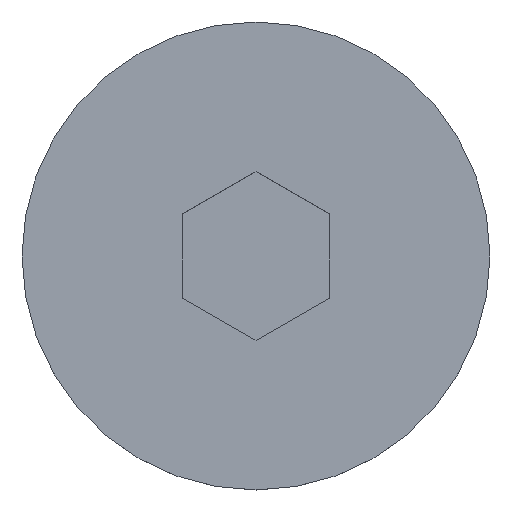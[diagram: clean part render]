
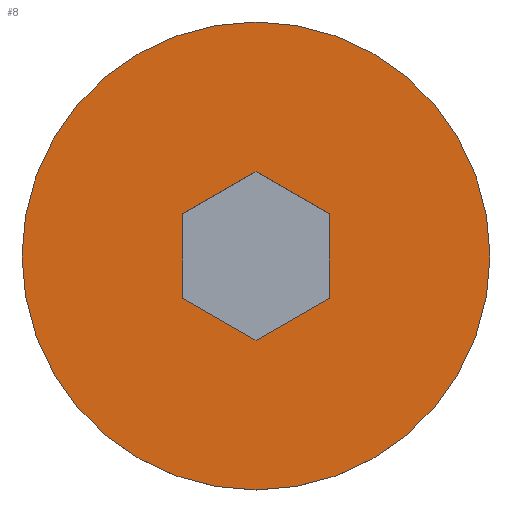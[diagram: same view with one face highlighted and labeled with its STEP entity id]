
A CAD part, top view. The second image highlights one B-rep face of the part: STEP entity #8.
In plain terms, the highlighted planar face has unit normal (0, 0, 1).
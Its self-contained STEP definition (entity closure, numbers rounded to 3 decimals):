
#1 = EDGE_CURVE ( 'NONE', #62, #221, #347, .T. ) ;
#2 = EDGE_CURVE ( 'NONE', #74, #398, #235, .T. ) ;
#3 = ORIENTED_EDGE ( 'NONE', *, *, #9, .F. ) ;
#5 = VECTOR ( 'NONE', #327, 1000. ) ;
#6 = ORIENTED_EDGE ( 'NONE', *, *, #2, .F. ) ;
#8 = ADVANCED_FACE ( 'NONE', ( #178, #249 ), #393, .T. ) ;
#9 = EDGE_CURVE ( 'NONE', #398, #149, #122, .T. ) ;
#11 = DIRECTION ( 'NONE',  ( -1., 0., 0. ) ) ;
#22 = DIRECTION ( 'NONE',  ( 0., 0., -1. ) ) ;
#23 = VECTOR ( 'NONE', #388, 1000. ) ;
#25 = CARTESIAN_POINT ( 'NONE',  ( 0., 3.464, 5.22 ) ) ;
#30 = EDGE_LOOP ( 'NONE', ( #185, #45, #356, #3, #6, #195 ) ) ;
#41 = LINE ( 'NONE', #369, #181 ) ;
#45 = ORIENTED_EDGE ( 'NONE', *, *, #102, .F. ) ;
#54 = CARTESIAN_POINT ( 'NONE',  ( 9.61, 0., 5.22 ) ) ;
#57 = CARTESIAN_POINT ( 'NONE',  ( 0., -3.464, 5.22 ) ) ;
#59 = CARTESIAN_POINT ( 'NONE',  ( -3., -1.732, 5.22 ) ) ;
#62 = VERTEX_POINT ( 'NONE', #332 ) ;
#74 = VERTEX_POINT ( 'NONE', #120 ) ;
#77 = CARTESIAN_POINT ( 'NONE',  ( -3., -1.732, 5.22 ) ) ;
#79 = EDGE_CURVE ( 'NONE', #221, #62, #101, .T. ) ;
#91 = CARTESIAN_POINT ( 'NONE',  ( 0., 0., 5.22 ) ) ;
#93 = DIRECTION ( 'NONE',  ( -1., 0., 0. ) ) ;
#101 = CIRCLE ( 'NONE', #240, 9.61 ) ;
#102 = EDGE_CURVE ( 'NONE', #392, #260, #41, .T. ) ;
#113 = CARTESIAN_POINT ( 'NONE',  ( 0., 0., 5.22 ) ) ;
#115 = ORIENTED_EDGE ( 'NONE', *, *, #1, .F. ) ;
#120 = CARTESIAN_POINT ( 'NONE',  ( -3., 1.732, 5.22 ) ) ;
#122 = LINE ( 'NONE', #77, #5 ) ;
#137 = VECTOR ( 'NONE', #197, 1000. ) ;
#142 = VECTOR ( 'NONE', #250, 1000. ) ;
#146 = CARTESIAN_POINT ( 'NONE',  ( -9.61, 0., 5.22 ) ) ;
#149 = VERTEX_POINT ( 'NONE', #57 ) ;
#150 = LINE ( 'NONE', #353, #199 ) ;
#170 = CARTESIAN_POINT ( 'NONE',  ( 0., 3.464, 5.22 ) ) ;
#174 = ORIENTED_EDGE ( 'NONE', *, *, #79, .F. ) ;
#178 = FACE_BOUND ( 'NONE', #30, .T. ) ;
#181 = VECTOR ( 'NONE', #397, 1000. ) ;
#185 = ORIENTED_EDGE ( 'NONE', *, *, #241, .F. ) ;
#195 = ORIENTED_EDGE ( 'NONE', *, *, #407, .F. ) ;
#197 = DIRECTION ( 'NONE',  ( -0.866, 0.5, 0. ) ) ;
#199 = VECTOR ( 'NONE', #276, 1000. ) ;
#213 = DIRECTION ( 'NONE',  ( 1., 0., 0. ) ) ;
#221 = VERTEX_POINT ( 'NONE', #54 ) ;
#235 = LINE ( 'NONE', #430, #142 ) ;
#240 = AXIS2_PLACEMENT_3D ( 'NONE', #91, #22, #93 ) ;
#241 = EDGE_CURVE ( 'NONE', #260, #384, #289, .T. ) ;
#249 = FACE_OUTER_BOUND ( 'NONE', #255, .T. ) ;
#250 = DIRECTION ( 'NONE',  ( 0., -1., 0. ) ) ;
#255 = EDGE_LOOP ( 'NONE', ( #115, #174 ) ) ;
#260 = VERTEX_POINT ( 'NONE', #272 ) ;
#266 = CARTESIAN_POINT ( 'NONE',  ( 3., 1.732, 5.22 ) ) ;
#272 = CARTESIAN_POINT ( 'NONE',  ( 3., 1.732, 5.22 ) ) ;
#276 = DIRECTION ( 'NONE',  ( 0.866, 0.5, 0. ) ) ;
#286 = LINE ( 'NONE', #25, #23 ) ;
#289 = LINE ( 'NONE', #266, #137 ) ;
#290 = DIRECTION ( 'NONE',  ( 0., 0., -1. ) ) ;
#295 = EDGE_CURVE ( 'NONE', #149, #392, #150, .T. ) ;
#327 = DIRECTION ( 'NONE',  ( 0.866, -0.5, 0. ) ) ;
#332 = CARTESIAN_POINT ( 'NONE',  ( -9.61, 0., 5.22 ) ) ;
#338 = AXIS2_PLACEMENT_3D ( 'NONE', #146, #395, #213 ) ;
#347 = CIRCLE ( 'NONE', #405, 9.61 ) ;
#353 = CARTESIAN_POINT ( 'NONE',  ( 0., -3.464, 5.22 ) ) ;
#356 = ORIENTED_EDGE ( 'NONE', *, *, #295, .F. ) ;
#369 = CARTESIAN_POINT ( 'NONE',  ( 3., -1.732, 5.22 ) ) ;
#384 = VERTEX_POINT ( 'NONE', #170 ) ;
#388 = DIRECTION ( 'NONE',  ( -0.866, -0.5, 0. ) ) ;
#392 = VERTEX_POINT ( 'NONE', #416 ) ;
#393 = PLANE ( 'NONE',  #338 ) ;
#395 = DIRECTION ( 'NONE',  ( 0., 0., 1. ) ) ;
#397 = DIRECTION ( 'NONE',  ( 0., 1., 0. ) ) ;
#398 = VERTEX_POINT ( 'NONE', #59 ) ;
#405 = AXIS2_PLACEMENT_3D ( 'NONE', #113, #290, #11 ) ;
#407 = EDGE_CURVE ( 'NONE', #384, #74, #286, .T. ) ;
#416 = CARTESIAN_POINT ( 'NONE',  ( 3., -1.732, 5.22 ) ) ;
#430 = CARTESIAN_POINT ( 'NONE',  ( -3., 1.732, 5.22 ) ) ;
